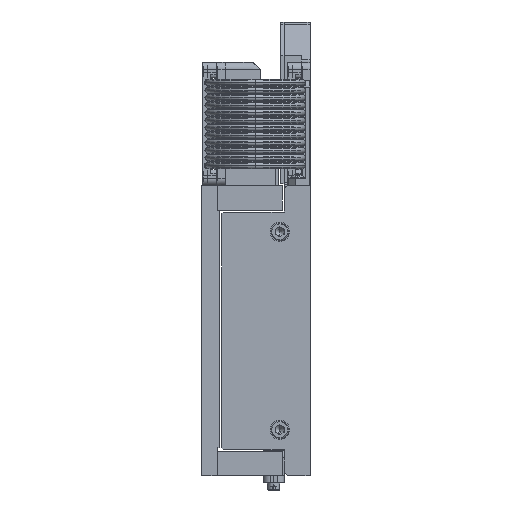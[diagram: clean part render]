
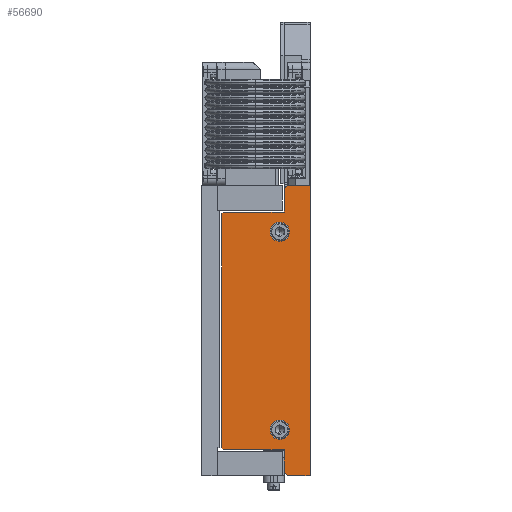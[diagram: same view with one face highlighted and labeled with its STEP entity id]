
A CAD part, left-side view. The second image highlights one B-rep face of the part: STEP entity #56690.
In plain terms, the highlighted planar face has unit normal (-1, 0, 0).
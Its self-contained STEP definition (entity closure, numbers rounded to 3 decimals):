
#302 = DIRECTION ( 'NONE',  ( 0., -1., 0. ) ) ;
#352 = DIRECTION ( 'NONE',  ( 0., 0., -1. ) ) ;
#1348 = CARTESIAN_POINT ( 'NONE',  ( -365., 17.5, -50.75 ) ) ;
#1610 = DIRECTION ( 'NONE',  ( 1., 0., 0. ) ) ;
#1650 = EDGE_CURVE ( 'NONE', #30111, #54727, #112455, .T. ) ;
#2654 = VERTEX_POINT ( 'NONE', #61338 ) ;
#2710 = CARTESIAN_POINT ( 'NONE',  ( -365., 49.5, 67.5 ) ) ;
#2766 = VERTEX_POINT ( 'NONE', #92274 ) ;
#4324 = DIRECTION ( 'NONE',  ( 0., 1., 0. ) ) ;
#5831 = VECTOR ( 'NONE', #17313, 1000. ) ;
#5982 = LINE ( 'NONE', #88431, #89826 ) ;
#6501 = EDGE_CURVE ( 'NONE', #14719, #30111, #5982, .T. ) ;
#6740 = EDGE_CURVE ( 'NONE', #49137, #117874, #65905, .T. ) ;
#7007 = CARTESIAN_POINT ( 'NONE',  ( -365., 50.5, 66.5 ) ) ;
#7541 = ORIENTED_EDGE ( 'NONE', *, *, #102825, .T. ) ;
#10138 = CARTESIAN_POINT ( 'NONE',  ( -365., 17.5, 61.75 ) ) ;
#10584 = DIRECTION ( 'NONE',  ( 0., -1., 0. ) ) ;
#12090 = DIRECTION ( 'NONE',  ( 0., 0., 1. ) ) ;
#13287 = DIRECTION ( 'NONE',  ( -1., 0., 0. ) ) ;
#14719 = VERTEX_POINT ( 'NONE', #20473 ) ;
#15144 = EDGE_CURVE ( 'NONE', #33594, #53046, #28642, .T. ) ;
#15651 = DIRECTION ( 'NONE',  ( 0., 0., 1. ) ) ;
#16181 = CARTESIAN_POINT ( 'NONE',  ( -365., 49.5, -67.5 ) ) ;
#16541 = ORIENTED_EDGE ( 'NONE', *, *, #81236, .T. ) ;
#16691 = EDGE_CURVE ( 'NONE', #61572, #64454, #25326, .T. ) ;
#16903 = VERTEX_POINT ( 'NONE', #78398 ) ;
#17313 = DIRECTION ( 'NONE',  ( 0., 0., -1. ) ) ;
#17449 = VERTEX_POINT ( 'NONE', #7007 ) ;
#18880 = FACE_BOUND ( 'NONE', #99792, .T. ) ;
#19035 = CARTESIAN_POINT ( 'NONE',  ( -365., 17.5, 50.75 ) ) ;
#20318 = CARTESIAN_POINT ( 'NONE',  ( -365., 49.5, 67.5 ) ) ;
#20473 = CARTESIAN_POINT ( 'NONE',  ( -365., 50.5, -66.5 ) ) ;
#21380 = VERTEX_POINT ( 'NONE', #20318 ) ;
#21647 = ORIENTED_EDGE ( 'NONE', *, *, #25077, .F. ) ;
#22066 = CARTESIAN_POINT ( 'NONE',  ( -365., 13.05, -82.5 ) ) ;
#22599 = CARTESIAN_POINT ( 'NONE',  ( -365., 15., 80.55 ) ) ;
#23111 = AXIS2_PLACEMENT_3D ( 'NONE', #99464, #13287, #31723 ) ;
#24319 = CARTESIAN_POINT ( 'NONE',  ( -365., 50.5, -66.5 ) ) ;
#25077 = EDGE_CURVE ( 'NONE', #53046, #33594, #70148, .T. ) ;
#25326 = LINE ( 'NONE', #112169, #5831 ) ;
#26700 = LINE ( 'NONE', #113710, #29717 ) ;
#27647 = AXIS2_PLACEMENT_3D ( 'NONE', #117370, #97867, #12090 ) ;
#28642 = CIRCLE ( 'NONE', #34053, 5.5 ) ;
#29271 = EDGE_CURVE ( 'NONE', #117874, #49137, #104859, .T. ) ;
#29717 = VECTOR ( 'NONE', #123224, 1000. ) ;
#30111 = VERTEX_POINT ( 'NONE', #16181 ) ;
#31407 = VECTOR ( 'NONE', #4324, 1000. ) ;
#31723 = DIRECTION ( 'NONE',  ( 0., 0., 1. ) ) ;
#32077 = ORIENTED_EDGE ( 'NONE', *, *, #6501, .T. ) ;
#32615 = ORIENTED_EDGE ( 'NONE', *, *, #118444, .T. ) ;
#33594 = VERTEX_POINT ( 'NONE', #1348 ) ;
#34053 = AXIS2_PLACEMENT_3D ( 'NONE', #35541, #93715, #111593 ) ;
#35017 = DIRECTION ( 'NONE',  ( 0., 0.707, -0.707 ) ) ;
#35306 = FACE_OUTER_BOUND ( 'NONE', #71775, .T. ) ;
#35541 = CARTESIAN_POINT ( 'NONE',  ( -365., 17.5, -56.25 ) ) ;
#35756 = VECTOR ( 'NONE', #42723, 1000. ) ;
#39742 = EDGE_CURVE ( 'NONE', #54727, #16903, #62190, .T. ) ;
#40657 = VECTOR ( 'NONE', #10584, 1000. ) ;
#42723 = DIRECTION ( 'NONE',  ( 0., 0., -1. ) ) ;
#43584 = EDGE_CURVE ( 'NONE', #64454, #21380, #91324, .T. ) ;
#43704 = CARTESIAN_POINT ( 'NONE',  ( -365., 17.5, -56.25 ) ) ;
#43922 = ORIENTED_EDGE ( 'NONE', *, *, #15144, .F. ) ;
#44970 = EDGE_LOOP ( 'NONE', ( #43922, #21647 ) ) ;
#46259 = ORIENTED_EDGE ( 'NONE', *, *, #29271, .F. ) ;
#46383 = PLANE ( 'NONE',  #118780 ) ;
#48011 = EDGE_CURVE ( 'NONE', #89811, #2654, #71785, .T. ) ;
#49060 = DIRECTION ( 'NONE',  ( 0., -0.707, -0.707 ) ) ;
#49137 = VERTEX_POINT ( 'NONE', #19035 ) ;
#50270 = CARTESIAN_POINT ( 'NONE',  ( -365., 17.5, -61.75 ) ) ;
#51075 = LINE ( 'NONE', #61881, #67531 ) ;
#53046 = VERTEX_POINT ( 'NONE', #50270 ) ;
#53278 = EDGE_CURVE ( 'NONE', #16903, #118788, #51075, .T. ) ;
#53345 = FACE_BOUND ( 'NONE', #44970, .T. ) ;
#54727 = VERTEX_POINT ( 'NONE', #76749 ) ;
#55273 = ORIENTED_EDGE ( 'NONE', *, *, #39742, .T. ) ;
#55732 = VECTOR ( 'NONE', #35017, 1000. ) ;
#55907 = VECTOR ( 'NONE', #302, 1000. ) ;
#55938 = ORIENTED_EDGE ( 'NONE', *, *, #1650, .T. ) ;
#56690 = ADVANCED_FACE ( 'NONE', ( #53345, #18880, #35306 ), #46383, .F. ) ;
#59916 = ORIENTED_EDGE ( 'NONE', *, *, #48011, .T. ) ;
#60684 = DIRECTION ( 'NONE',  ( 0., 0.707, -0.707 ) ) ;
#60911 = ORIENTED_EDGE ( 'NONE', *, *, #87120, .T. ) ;
#61021 = ORIENTED_EDGE ( 'NONE', *, *, #53278, .T. ) ;
#61223 = LINE ( 'NONE', #24319, #35756 ) ;
#61338 = CARTESIAN_POINT ( 'NONE',  ( -365., 0.25, 82.5 ) ) ;
#61572 = VERTEX_POINT ( 'NONE', #123832 ) ;
#61881 = CARTESIAN_POINT ( 'NONE',  ( -365., 13.05, -82.5 ) ) ;
#62190 = LINE ( 'NONE', #65386, #78712 ) ;
#64454 = VERTEX_POINT ( 'NONE', #117929 ) ;
#65386 = CARTESIAN_POINT ( 'NONE',  ( -365., 15., -80.55 ) ) ;
#65905 = CIRCLE ( 'NONE', #27647, 5.5 ) ;
#67531 = VECTOR ( 'NONE', #80354, 1000. ) ;
#68189 = LINE ( 'NONE', #22599, #83192 ) ;
#70148 = CIRCLE ( 'NONE', #72586, 5.5 ) ;
#71775 = EDGE_LOOP ( 'NONE', ( #59916, #60911, #105589, #104093, #75137, #16541, #7541, #32077, #55938, #55273, #61021, #32615 ) ) ;
#71785 = LINE ( 'NONE', #97697, #79273 ) ;
#72267 = EDGE_CURVE ( 'NONE', #2766, #61572, #68189, .T. ) ;
#72586 = AXIS2_PLACEMENT_3D ( 'NONE', #43704, #92242, #15651 ) ;
#73688 = ORIENTED_EDGE ( 'NONE', *, *, #6740, .F. ) ;
#75137 = ORIENTED_EDGE ( 'NONE', *, *, #43584, .T. ) ;
#76749 = CARTESIAN_POINT ( 'NONE',  ( -365., 15., -67.5 ) ) ;
#78398 = CARTESIAN_POINT ( 'NONE',  ( -365., 15., -80.55 ) ) ;
#78712 = VECTOR ( 'NONE', #103831, 1000. ) ;
#79273 = VECTOR ( 'NONE', #82990, 1000. ) ;
#80354 = DIRECTION ( 'NONE',  ( 0., -0.707, -0.707 ) ) ;
#81236 = EDGE_CURVE ( 'NONE', #21380, #17449, #116951, .T. ) ;
#82990 = DIRECTION ( 'NONE',  ( 0., 0., 1. ) ) ;
#83192 = VECTOR ( 'NONE', #60684, 1000. ) ;
#86136 = CARTESIAN_POINT ( 'NONE',  ( -365., 0.25, -82.5 ) ) ;
#87120 = EDGE_CURVE ( 'NONE', #2654, #2766, #26700, .T. ) ;
#88431 = CARTESIAN_POINT ( 'NONE',  ( -365., 49.5, -67.5 ) ) ;
#89811 = VERTEX_POINT ( 'NONE', #109545 ) ;
#89826 = VECTOR ( 'NONE', #49060, 1000. ) ;
#91324 = LINE ( 'NONE', #2710, #31407 ) ;
#92242 = DIRECTION ( 'NONE',  ( -1., 0., 0. ) ) ;
#92274 = CARTESIAN_POINT ( 'NONE',  ( -365., 13.05, 82.5 ) ) ;
#93715 = DIRECTION ( 'NONE',  ( -1., 0., 0. ) ) ;
#97697 = CARTESIAN_POINT ( 'NONE',  ( -365., 0.25, 82.5 ) ) ;
#97867 = DIRECTION ( 'NONE',  ( -1., 0., 0. ) ) ;
#99464 = CARTESIAN_POINT ( 'NONE',  ( -365., 17.5, 56.25 ) ) ;
#99792 = EDGE_LOOP ( 'NONE', ( #46259, #73688 ) ) ;
#102825 = EDGE_CURVE ( 'NONE', #17449, #14719, #61223, .T. ) ;
#103831 = DIRECTION ( 'NONE',  ( 0., 0., -1. ) ) ;
#104093 = ORIENTED_EDGE ( 'NONE', *, *, #16691, .T. ) ;
#104859 = CIRCLE ( 'NONE', #23111, 5.5 ) ;
#105589 = ORIENTED_EDGE ( 'NONE', *, *, #72267, .T. ) ;
#106560 = CARTESIAN_POINT ( 'NONE',  ( -365., 0., 0. ) ) ;
#109545 = CARTESIAN_POINT ( 'NONE',  ( -365., 0.25, -82.5 ) ) ;
#109712 = LINE ( 'NONE', #86136, #55907 ) ;
#111593 = DIRECTION ( 'NONE',  ( 0., 0., 1. ) ) ;
#112169 = CARTESIAN_POINT ( 'NONE',  ( -365., 15., 67.5 ) ) ;
#112455 = LINE ( 'NONE', #115471, #40657 ) ;
#113710 = CARTESIAN_POINT ( 'NONE',  ( -365., 13.05, 82.5 ) ) ;
#115471 = CARTESIAN_POINT ( 'NONE',  ( -365., 15., -67.5 ) ) ;
#116951 = LINE ( 'NONE', #119793, #55732 ) ;
#117370 = CARTESIAN_POINT ( 'NONE',  ( -365., 17.5, 56.25 ) ) ;
#117874 = VERTEX_POINT ( 'NONE', #10138 ) ;
#117929 = CARTESIAN_POINT ( 'NONE',  ( -365., 15., 67.5 ) ) ;
#118444 = EDGE_CURVE ( 'NONE', #118788, #89811, #109712, .T. ) ;
#118780 = AXIS2_PLACEMENT_3D ( 'NONE', #106560, #1610, #352 ) ;
#118788 = VERTEX_POINT ( 'NONE', #22066 ) ;
#119793 = CARTESIAN_POINT ( 'NONE',  ( -365., 50.5, 66.5 ) ) ;
#123224 = DIRECTION ( 'NONE',  ( 0., 1., 0. ) ) ;
#123832 = CARTESIAN_POINT ( 'NONE',  ( -365., 15., 80.55 ) ) ;
